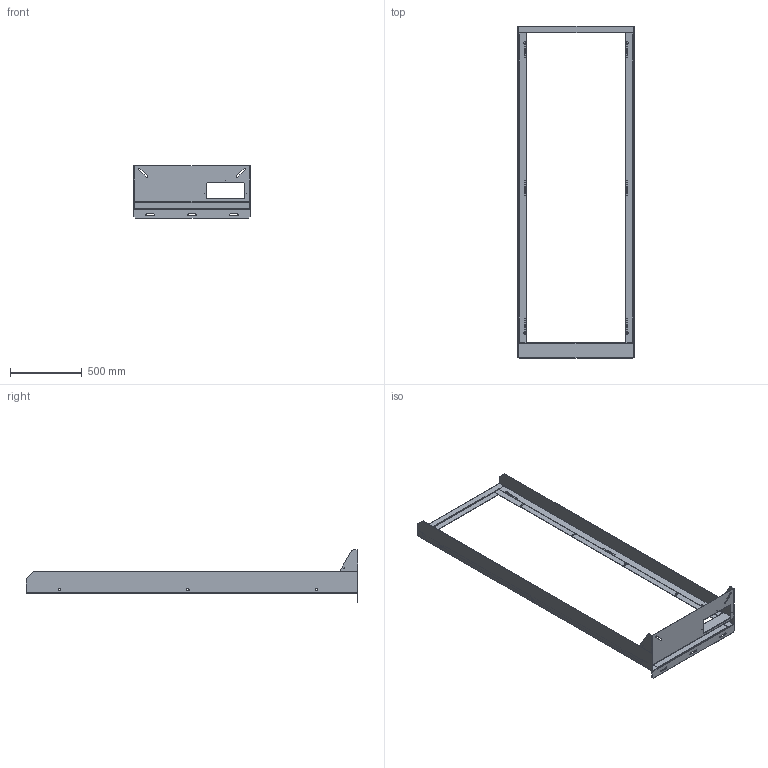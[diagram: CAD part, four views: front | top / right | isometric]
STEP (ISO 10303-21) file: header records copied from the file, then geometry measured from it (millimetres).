
FILE_DESCRIPTION (( 'STEP AP203' ), '1' );
FILE_NAME ('62466.STEP', '2025-03-17T16:39:18', ( '' ), ( '' ), 'SwSTEP 2.0', 'SolidWorks 2020', '' );
FILE_SCHEMA (( 'CONFIG_CONTROL_DESIGN' ));
Length unit declared in the file: inch
Products named in the file (8): 62466; 89251058; 89251150; 89251057; 89251151; 89251162_WITH HELLCAT; 89251153; 89251056
Assembly tree (8 placements, depth 3):
  62466
    89251162_WITH HELLCAT
      89251056
      89251150
      89251153  x2
      89251057
      89251058
      89251151
Bounding box: 809.6 x 2312.67 x 368.3 mm (x, y, z)
Volume: 5821562 mm3; surface area: 3678999.2 mm2
Topology: 7 solids, 7 shells, 524 faces, 1428 edges, 902 vertices
Faces by surface type: plane 316, cylinder 208
Entity records: 14671 total; most frequent: DIRECTION 2417, CARTESIAN_POINT 2370, ORIENTED_EDGE 2362, EDGE_CURVE 1181, VECTOR 831, LINE 831, AXIS2_PLACEMENT_3D 793, VERTEX_POINT 746
